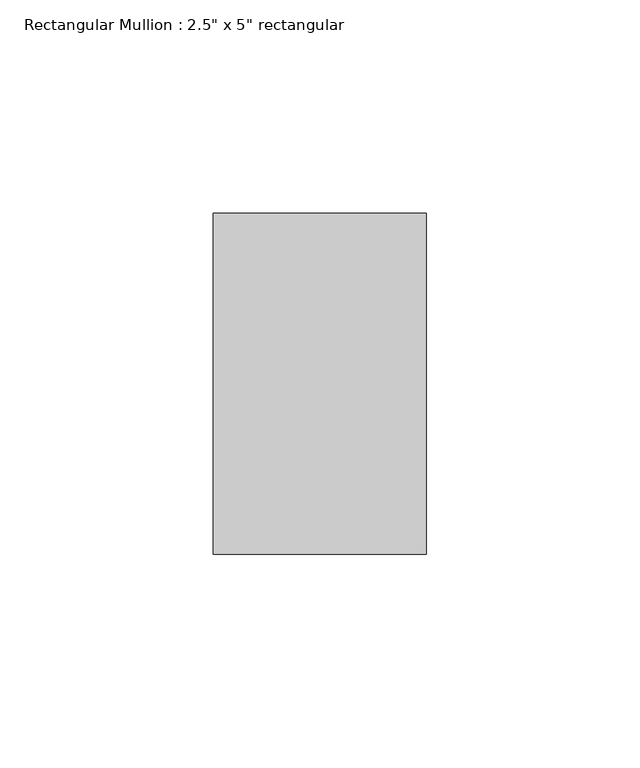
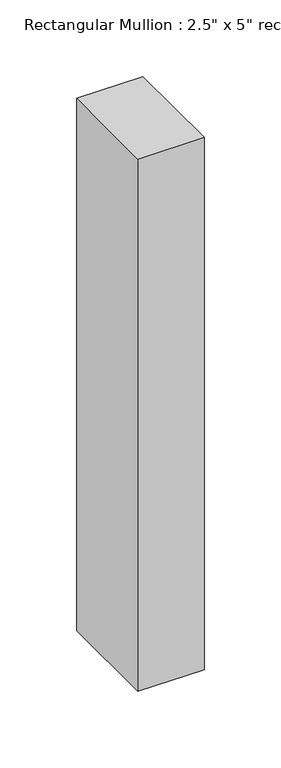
"""IFC4 building model written with IfcOpenShell, lengths in millimetres: member geometry."""

from ifc_helpers import new_model, si_unit, frame, origin, place, context, project, spatial, polyline, outline, extrude, source, transform, mapped, element, save


def member_759d1258(model_context):
    return source(origin(), model_context, "Body", "SweptSolid", [
        extrude(outline(polyline([(0.0, 40.0), (0.0, -40.0), (-50.0, -40.0), (-50.0, 40.0), (0.0, 40.0)])), frame((0.0, 0.0, -424.4373471), z_axis=(0.0, 0.0, 1.0), x_axis=(1.0, 0.0, 0.0)), (0.0, 0.0, 1.0), 424.4373471),
    ])


if __name__ == "__main__":
    model = new_model("IFC4")
    model_context = context("Model", 3, world=origin())
    ifc_project = project(units=[si_unit("LENGTHUNIT", "METRE", prefix="MILLI")], contexts=[model_context])
    site = spatial("IfcSite", under=ifc_project)
    building = spatial("IfcBuilding", under=site)
    placement = place(None, origin())
    member_shape = member_759d1258(model_context)
    element("IfcMember", 1, ObjectType="Rectangular Mullion : 2.5\" x 5\" rectangular", at=placement, inside=building, context=model_context, shape_type="MappedRepresentation", body=[
        mapped(member_shape, transform((0.0, 0.0, 0.0), x_axis=(1.0, 0.0, 0.0), y_axis=(0.0, 1.0, 0.0), z_axis=(0.0, 0.0, 1.0))),
    ])
    save(model, "model.ifc")
